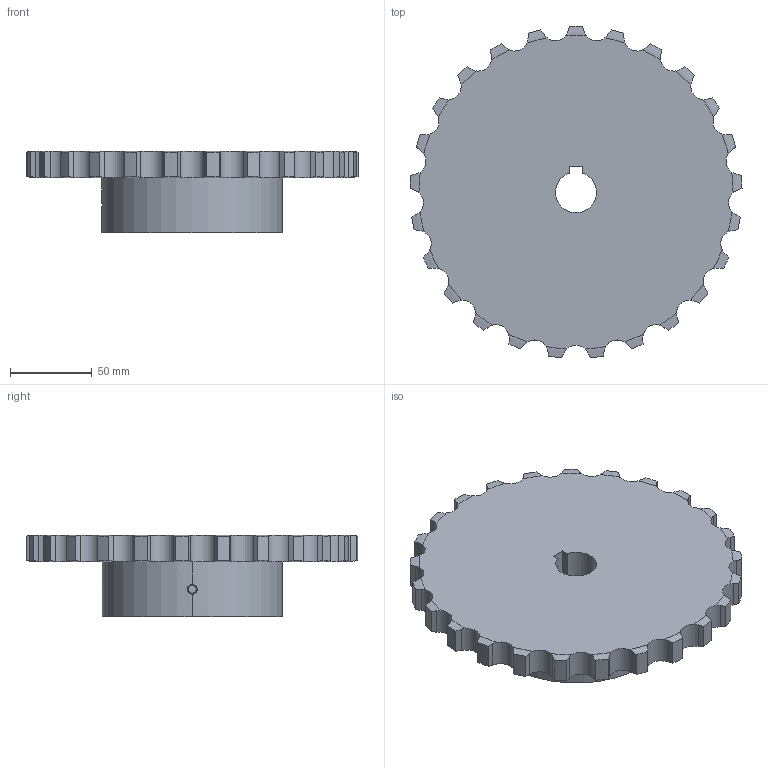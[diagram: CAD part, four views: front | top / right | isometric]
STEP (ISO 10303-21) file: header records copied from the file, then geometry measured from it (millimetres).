
FILE_DESCRIPTION((''),'2;1');
FILE_NAME('510-501-2525_PRT','2021-02-13T',('Brieden'),('Brieden'),'PRO/ENGINEER BY PARAMETRIC TECHNOLOGY CORPORATION, 2010160','PRO/ENGINEER BY PARAMETRIC TECHNOLOGY CORPORATION, 2010160','');
FILE_SCHEMA(('AUTOMOTIVE_DESIGN { 1 0 10303 214 1 1 1 1 }'));
Length unit declared in the file: millimetre
Products named in the file (1): 510-501-2525_PRT
Bounding box: 202.6 x 202.27 x 50 mm (x, y, z)
Volume: 775950.5 mm3; surface area: 87768.3 mm2
Topology: 1 solids, 1 shells, 171 faces, 495 edges, 328 vertices
Faces by surface type: cylinder 107, torus 50, plane 8, bspline 6
Entity records: 8366 total; most frequent: CARTESIAN_POINT 2585, ORIENTED_EDGE 990, DIRECTION 773, PRESENTATION_STYLE_ASSIGNMENT 496, STYLED_ITEM 496, CURVE_STYLE 495, EDGE_CURVE 495, VERTEX_POINT 328
